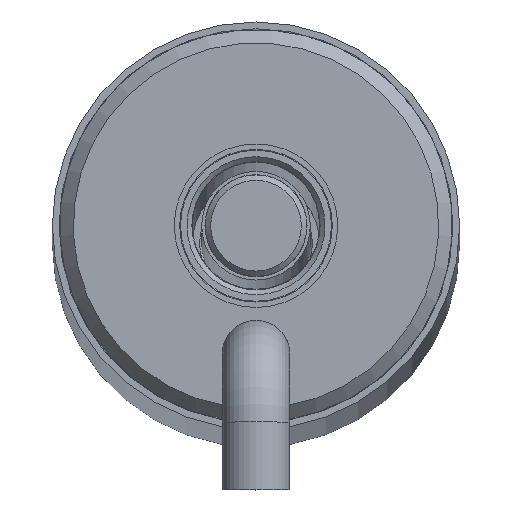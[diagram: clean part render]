
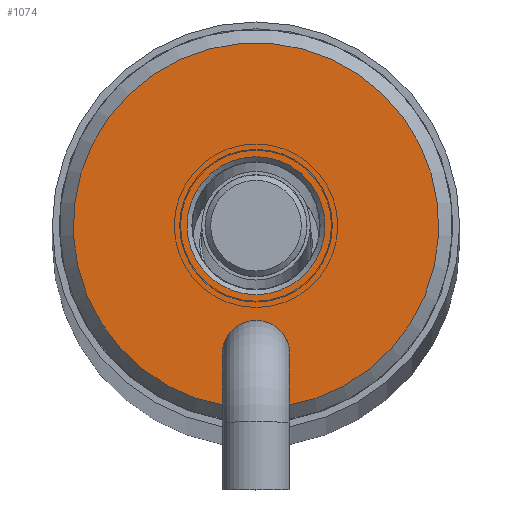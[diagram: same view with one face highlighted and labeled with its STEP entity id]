
A CAD part, top view. The second image highlights one B-rep face of the part: STEP entity #1074.
In plain terms, the highlighted planar face has unit normal (0, 0, 1).
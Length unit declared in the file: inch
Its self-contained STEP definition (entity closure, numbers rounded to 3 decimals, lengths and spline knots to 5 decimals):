
#78=FACE_BOUND('',#214,.T.);
#116=PLANE('',#1254);
#145=FACE_OUTER_BOUND('',#213,.T.);
#213=EDGE_LOOP('',(#719,#720,#721,#722,#723));
#214=EDGE_LOOP('',(#724));
#294=LINE('',#1700,#344);
#297=LINE('',#1710,#347);
#344=VECTOR('',#1401,0.3937);
#347=VECTOR('',#1406,0.3937);
#396=CIRCLE('',#1249,0.0625);
#398=CIRCLE('',#1251,0.0625);
#399=CIRCLE('',#1255,0.3365);
#400=CIRCLE('',#1256,0.127);
#448=VERTEX_POINT('',#1686);
#449=VERTEX_POINT('',#1688);
#452=VERTEX_POINT('',#1694);
#453=VERTEX_POINT('',#1699);
#456=VERTEX_POINT('',#1709);
#457=VERTEX_POINT('',#1712);
#550=EDGE_CURVE('',#449,#448,#396,.T.);
#554=EDGE_CURVE('',#448,#452,#398,.T.);
#555=EDGE_CURVE('',#453,#449,#294,.T.);
#559=EDGE_CURVE('',#452,#456,#297,.T.);
#560=EDGE_CURVE('',#453,#456,#399,.T.);
#561=EDGE_CURVE('',#457,#457,#400,.T.);
#719=ORIENTED_EDGE('',*,*,#550,.T.);
#720=ORIENTED_EDGE('',*,*,#554,.T.);
#721=ORIENTED_EDGE('',*,*,#559,.T.);
#722=ORIENTED_EDGE('',*,*,#560,.F.);
#723=ORIENTED_EDGE('',*,*,#555,.T.);
#724=ORIENTED_EDGE('',*,*,#561,.T.);
#1074=ADVANCED_FACE('',(#145,#78),#116,.T.);
#1249=AXIS2_PLACEMENT_3D('',#1689,#1389,#1390);
#1251=AXIS2_PLACEMENT_3D('',#1696,#1395,#1396);
#1254=AXIS2_PLACEMENT_3D('',#1708,#1404,#1405);
#1255=AXIS2_PLACEMENT_3D('',#1711,#1407,#1408);
#1256=AXIS2_PLACEMENT_3D('',#1713,#1409,#1410);
#1389=DIRECTION('center_axis',(0.,0.,
-1.));
#1390=DIRECTION('ref_axis',(1.,0.,0.));
#1395=DIRECTION('center_axis',(0.,0.,
-1.));
#1396=DIRECTION('ref_axis',(1.,0.,0.));
#1401=DIRECTION('',(0.,1.,0.));
#1404=DIRECTION('center_axis',(0.,0.,
1.));
#1405=DIRECTION('ref_axis',(1.,0.,0.));
#1406=DIRECTION('',(0.,-1.,0.));
#1407=DIRECTION('center_axis',(0.,0.,
-1.));
#1408=DIRECTION('ref_axis',(-1.,0.,0.));
#1409=DIRECTION('center_axis',(0.,0.,
-1.));
#1410=DIRECTION('ref_axis',(-1.,0.,0.));
#1686=CARTESIAN_POINT('',(-0.0625,-0.237,18.74));
#1688=CARTESIAN_POINT('',(-0.053,-0.27012,18.74));
#1689=CARTESIAN_POINT('Origin',(0.,-0.237,18.74));
#1694=CARTESIAN_POINT('',(0.053,-0.27012,18.74));
#1696=CARTESIAN_POINT('Origin',(0.,-0.237,18.74));
#1699=CARTESIAN_POINT('',(-0.053,-0.3323,18.74));
#1700=CARTESIAN_POINT('',(-0.053,0.04975,18.74));
#1708=CARTESIAN_POINT('Origin',(0.,0.3365,18.74));
#1709=CARTESIAN_POINT('',(0.053,-0.3323,18.74));
#1710=CARTESIAN_POINT('',(0.053,-0.01055,18.74));
#1711=CARTESIAN_POINT('Origin',(0.,0.,
18.74));
#1712=CARTESIAN_POINT('',(0.,-0.127,18.74));
#1713=CARTESIAN_POINT('Origin',(0.,0.,
18.74));
